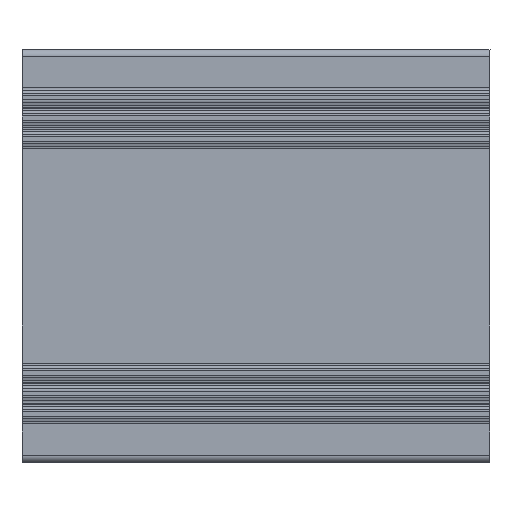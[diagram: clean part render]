
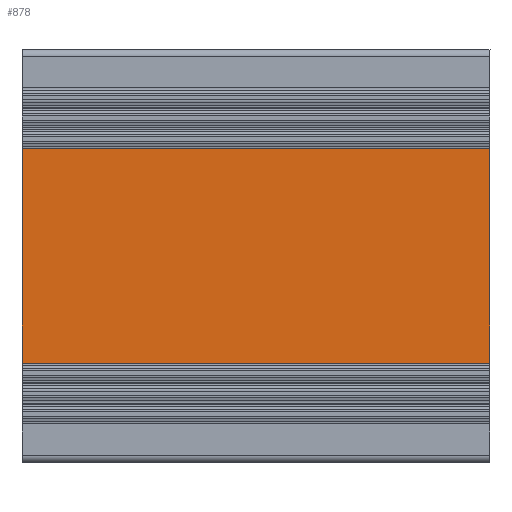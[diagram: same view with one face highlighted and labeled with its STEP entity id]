
A CAD part, front view. The second image highlights one B-rep face of the part: STEP entity #878.
In plain terms, the highlighted planar face has unit normal (0, -1, 0).
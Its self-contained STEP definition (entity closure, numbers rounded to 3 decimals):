
#48 = ORIENTED_EDGE ( 'NONE', *, *, #989, .T. ) ;
#63 = ORIENTED_EDGE ( 'NONE', *, *, #1035, .T. ) ;
#92 = VERTEX_POINT ( 'NONE', #515 ) ;
#315 = LINE ( 'NONE', #1357, #784 ) ;
#328 = DIRECTION ( 'NONE',  ( 0., 0., 1. ) ) ;
#452 = EDGE_LOOP ( 'NONE', ( #48, #1410, #2355, #63 ) ) ;
#488 = VECTOR ( 'NONE', #328, 1000. ) ;
#515 = CARTESIAN_POINT ( 'NONE',  ( 214.29, -39.147, 155.701 ) ) ;
#599 = EDGE_CURVE ( 'NONE', #1802, #1127, #2063, .T. ) ;
#675 = DIRECTION ( 'NONE',  ( 0., -1., 0. ) ) ;
#678 = CARTESIAN_POINT ( 'NONE',  ( 214.29, -39.147, 93.35 ) ) ;
#713 = CARTESIAN_POINT ( 'NONE',  ( -126.81, -39.147, 93.35 ) ) ;
#714 = DIRECTION ( 'NONE',  ( 0., 0., -1. ) ) ;
#779 = VECTOR ( 'NONE', #2251, 1000. ) ;
#784 = VECTOR ( 'NONE', #714, 1000. ) ;
#867 = PLANE ( 'NONE',  #1233 ) ;
#878 = ADVANCED_FACE ( 'NONE', ( #1840 ), #867, .T. ) ;
#920 = LINE ( 'NONE', #713, #779 ) ;
#989 = EDGE_CURVE ( 'NONE', #92, #2381, #315, .T. ) ;
#1035 = EDGE_CURVE ( 'NONE', #1127, #92, #1503, .T. ) ;
#1120 = CARTESIAN_POINT ( 'NONE',  ( -126.81, -39.147, 155.701 ) ) ;
#1127 = VERTEX_POINT ( 'NONE', #1326 ) ;
#1168 = CARTESIAN_POINT ( 'NONE',  ( 350.32, -39.147, 93.35 ) ) ;
#1233 = AXIS2_PLACEMENT_3D ( 'NONE', #1645, #675, #1260 ) ;
#1260 = DIRECTION ( 'NONE',  ( 0., 0., -1. ) ) ;
#1326 = CARTESIAN_POINT ( 'NONE',  ( 350.32, -39.147, 155.701 ) ) ;
#1350 = VECTOR ( 'NONE', #1905, 1000. ) ;
#1357 = CARTESIAN_POINT ( 'NONE',  ( 214.29, -39.147, 66.477 ) ) ;
#1410 = ORIENTED_EDGE ( 'NONE', *, *, #2039, .T. ) ;
#1503 = LINE ( 'NONE', #1120, #1350 ) ;
#1645 = CARTESIAN_POINT ( 'NONE',  ( -126.81, -39.147, 66.477 ) ) ;
#1802 = VERTEX_POINT ( 'NONE', #1168 ) ;
#1840 = FACE_OUTER_BOUND ( 'NONE', #452, .T. ) ;
#1905 = DIRECTION ( 'NONE',  ( -1., 0., 0. ) ) ;
#1906 = CARTESIAN_POINT ( 'NONE',  ( 350.32, -39.147, 173.477 ) ) ;
#2039 = EDGE_CURVE ( 'NONE', #2381, #1802, #920, .T. ) ;
#2063 = LINE ( 'NONE', #1906, #488 ) ;
#2251 = DIRECTION ( 'NONE',  ( 1., 0., 0. ) ) ;
#2355 = ORIENTED_EDGE ( 'NONE', *, *, #599, .T. ) ;
#2381 = VERTEX_POINT ( 'NONE', #678 ) ;
